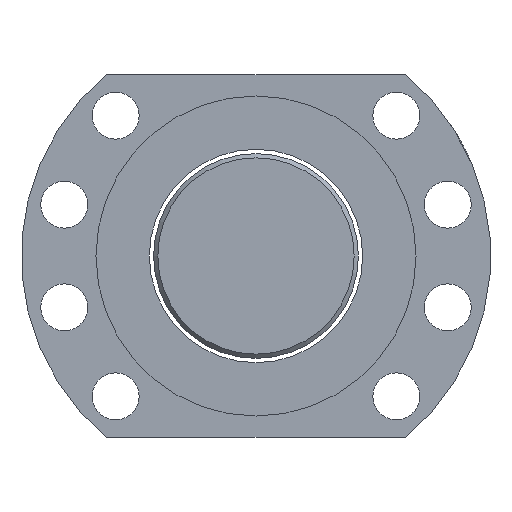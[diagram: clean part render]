
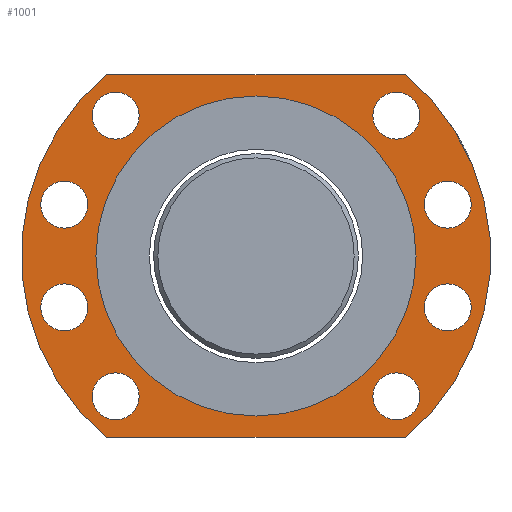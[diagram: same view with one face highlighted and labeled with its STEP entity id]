
A CAD part, left-side view. The second image highlights one B-rep face of the part: STEP entity #1001.
In plain terms, the highlighted planar face has unit normal (-1, 0, 0).
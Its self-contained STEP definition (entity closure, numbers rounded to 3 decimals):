
#21 = EDGE_LOOP ( 'NONE', ( #2133 ) ) ;
#36 = EDGE_CURVE ( 'NONE', #1721, #1721, #2046, .T. ) ;
#39 = CARTESIAN_POINT ( 'NONE',  ( -16.949, -42.067, -1.265 ) ) ;
#54 = DIRECTION ( 'NONE',  ( -1., 0., 0. ) ) ;
#64 = DIRECTION ( 'NONE',  ( 0., 0., -1. ) ) ;
#72 = CARTESIAN_POINT ( 'NONE',  ( -16.949, 47.764, 4.235 ) ) ;
#79 = DIRECTION ( 'NONE',  ( 0., 0., -1. ) ) ;
#82 = ORIENTED_EDGE ( 'NONE', *, *, #147, .T. ) ;
#114 = EDGE_CURVE ( 'NONE', #1668, #1035, #1779, .T. ) ;
#123 = CARTESIAN_POINT ( 'NONE',  ( -16.949, -42.067, 4.235 ) ) ;
#146 = FACE_BOUND ( 'NONE', #21, .T. ) ;
#147 = EDGE_CURVE ( 'NONE', #1576, #1576, #2353, .T. ) ;
#173 = VERTEX_POINT ( 'NONE', #2056 ) ;
#205 = AXIS2_PLACEMENT_3D ( 'NONE', #971, #1533, #1705 ) ;
#231 = CIRCLE ( 'NONE', #1115, 37.5 ) ;
#281 = VERTEX_POINT ( 'NONE', #1965 ) ;
#290 = EDGE_CURVE ( 'NONE', #1206, #1206, #660, .T. ) ;
#308 = AXIS2_PLACEMENT_3D ( 'NONE', #39, #1542, #774 ) ;
#320 = CARTESIAN_POINT ( 'NONE',  ( -16.949, 47.764, 22.805 ) ) ;
#356 = CIRCLE ( 'NONE', #1621, 5.5 ) ;
#392 = EDGE_CURVE ( 'NONE', #470, #470, #1581, .T. ) ;
#396 = EDGE_LOOP ( 'NONE', ( #1193 ) ) ;
#413 = LINE ( 'NONE', #2271, #569 ) ;
#470 = VERTEX_POINT ( 'NONE', #2111 ) ;
#481 = ORIENTED_EDGE ( 'NONE', *, *, #36, .F. ) ;
#482 = CARTESIAN_POINT ( 'NONE',  ( -16.949, 35.729, 49.15 ) ) ;
#491 = FACE_BOUND ( 'NONE', #396, .T. ) ;
#504 = CARTESIAN_POINT ( 'NONE',  ( -16.949, 47.764, 28.305 ) ) ;
#513 = FACE_BOUND ( 'NONE', #1657, .T. ) ;
#561 = EDGE_LOOP ( 'NONE', ( #481 ) ) ;
#569 = VECTOR ( 'NONE', #2075, 1000. ) ;
#575 = ORIENTED_EDGE ( 'NONE', *, *, #1075, .T. ) ;
#583 = AXIS2_PLACEMENT_3D ( 'NONE', #2170, #1808, #1938 ) ;
#597 = DIRECTION ( 'NONE',  ( 1., 0., 0. ) ) ;
#620 = AXIS2_PLACEMENT_3D ( 'NONE', #1322, #597, #802 ) ;
#660 = CIRCLE ( 'NONE', #205, 5.5 ) ;
#664 = CARTESIAN_POINT ( 'NONE',  ( -16.949, -30.032, 49.15 ) ) ;
#673 = CARTESIAN_POINT ( 'NONE',  ( -16.949, 35.729, 43.65 ) ) ;
#676 = DIRECTION ( 'NONE',  ( -1., 0., 0. ) ) ;
#704 = DIRECTION ( 'NONE',  ( -1., 0., 0. ) ) ;
#745 = LINE ( 'NONE', #2045, #1819 ) ;
#746 = EDGE_LOOP ( 'NONE', ( #817, #2183, #1023, #575 ) ) ;
#774 = DIRECTION ( 'NONE',  ( 0., 0., 1. ) ) ;
#802 = DIRECTION ( 'NONE',  ( 0., 0., 1. ) ) ;
#813 = DIRECTION ( 'NONE',  ( -1., 0., 0. ) ) ;
#817 = ORIENTED_EDGE ( 'NONE', *, *, #1639, .T. ) ;
#830 = CARTESIAN_POINT ( 'NONE',  ( -16.949, 2.848, -26.73 ) ) ;
#877 = FACE_BOUND ( 'NONE', #2059, .T. ) ;
#889 = FACE_BOUND ( 'NONE', #561, .T. ) ;
#894 = EDGE_CURVE ( 'NONE', #1423, #1423, #1698, .T. ) ;
#897 = CARTESIAN_POINT ( 'NONE',  ( -16.949, 2.848, 10.77 ) ) ;
#931 = AXIS2_PLACEMENT_3D ( 'NONE', #1500, #1868, #1681 ) ;
#971 = CARTESIAN_POINT ( 'NONE',  ( -16.949, -42.067, 22.805 ) ) ;
#993 = CIRCLE ( 'NONE', #308, 5.5 ) ;
#994 = EDGE_CURVE ( 'NONE', #1243, #1243, #356, .T. ) ;
#1001 = ADVANCED_FACE ( 'NONE', ( #1587, #491, #146, #877, #889, #1758, #1987, #513, #1381, #2297 ), #2119, .T. ) ;
#1023 = ORIENTED_EDGE ( 'NONE', *, *, #114, .T. ) ;
#1035 = VERTEX_POINT ( 'NONE', #1410 ) ;
#1046 = CARTESIAN_POINT ( 'NONE',  ( -16.949, 35.729, -22.111 ) ) ;
#1050 = EDGE_LOOP ( 'NONE', ( #2257 ) ) ;
#1075 = EDGE_CURVE ( 'NONE', #1035, #1266, #745, .T. ) ;
#1111 = ORIENTED_EDGE ( 'NONE', *, *, #894, .F. ) ;
#1115 = AXIS2_PLACEMENT_3D ( 'NONE', #897, #704, #1406 ) ;
#1149 = AXIS2_PLACEMENT_3D ( 'NONE', #1509, #54, #64 ) ;
#1193 = ORIENTED_EDGE ( 'NONE', *, *, #1900, .T. ) ;
#1205 = EDGE_LOOP ( 'NONE', ( #1787 ) ) ;
#1206 = VERTEX_POINT ( 'NONE', #2160 ) ;
#1228 = DIRECTION ( 'NONE',  ( 0., 0., 1. ) ) ;
#1243 = VERTEX_POINT ( 'NONE', #482 ) ;
#1266 = VERTEX_POINT ( 'NONE', #1455 ) ;
#1322 = CARTESIAN_POINT ( 'NONE',  ( -16.949, -30.032, 43.65 ) ) ;
#1343 = CARTESIAN_POINT ( 'NONE',  ( -16.949, -32.062, -31.73 ) ) ;
#1381 = FACE_BOUND ( 'NONE', #1050, .T. ) ;
#1406 = DIRECTION ( 'NONE',  ( 0., 0., -1. ) ) ;
#1410 = CARTESIAN_POINT ( 'NONE',  ( -16.949, -32.062, 53.27 ) ) ;
#1420 = DIRECTION ( 'NONE',  ( -1., 0., 0. ) ) ;
#1423 = VERTEX_POINT ( 'NONE', #504 ) ;
#1434 = DIRECTION ( 'NONE',  ( 0., 0., 1. ) ) ;
#1455 = CARTESIAN_POINT ( 'NONE',  ( -16.949, 37.759, 53.27 ) ) ;
#1500 = CARTESIAN_POINT ( 'NONE',  ( -16.949, 47.764, -1.265 ) ) ;
#1509 = CARTESIAN_POINT ( 'NONE',  ( -16.949, 2.848, 10.77 ) ) ;
#1533 = DIRECTION ( 'NONE',  ( 1., 0., 0. ) ) ;
#1542 = DIRECTION ( 'NONE',  ( 1., 0., 0. ) ) ;
#1561 = VERTEX_POINT ( 'NONE', #830 ) ;
#1572 = EDGE_CURVE ( 'NONE', #1747, #1747, #993, .T. ) ;
#1576 = VERTEX_POINT ( 'NONE', #664 ) ;
#1581 = CIRCLE ( 'NONE', #2164, 5.5 ) ;
#1587 = FACE_BOUND ( 'NONE', #1205, .T. ) ;
#1599 = EDGE_LOOP ( 'NONE', ( #2146 ) ) ;
#1621 = AXIS2_PLACEMENT_3D ( 'NONE', #673, #1797, #1434 ) ;
#1639 = EDGE_CURVE ( 'NONE', #1266, #173, #1917, .T. ) ;
#1644 = DIRECTION ( 'NONE',  ( 0., 1., 0. ) ) ;
#1657 = EDGE_LOOP ( 'NONE', ( #1976 ) ) ;
#1668 = VERTEX_POINT ( 'NONE', #1343 ) ;
#1681 = DIRECTION ( 'NONE',  ( 0., 0., 1. ) ) ;
#1698 = CIRCLE ( 'NONE', #2086, 5.5 ) ;
#1705 = DIRECTION ( 'NONE',  ( 0., 0., 1. ) ) ;
#1721 = VERTEX_POINT ( 'NONE', #72 ) ;
#1747 = VERTEX_POINT ( 'NONE', #123 ) ;
#1758 = FACE_OUTER_BOUND ( 'NONE', #746, .T. ) ;
#1775 = DIRECTION ( 'NONE',  ( 0., 0., 1. ) ) ;
#1779 = CIRCLE ( 'NONE', #1931, 55. ) ;
#1787 = ORIENTED_EDGE ( 'NONE', *, *, #290, .T. ) ;
#1797 = DIRECTION ( 'NONE',  ( -1., 0., 0. ) ) ;
#1808 = DIRECTION ( 'NONE',  ( -1., 0., 0. ) ) ;
#1819 = VECTOR ( 'NONE', #1644, 1000. ) ;
#1852 = EDGE_CURVE ( 'NONE', #1561, #1561, #231, .T. ) ;
#1868 = DIRECTION ( 'NONE',  ( -1., 0., 0. ) ) ;
#1880 = AXIS2_PLACEMENT_3D ( 'NONE', #1981, #2366, #2006 ) ;
#1891 = CARTESIAN_POINT ( 'NONE',  ( -16.949, 2.848, 10.77 ) ) ;
#1900 = EDGE_CURVE ( 'NONE', #281, #281, #2302, .T. ) ;
#1917 = CIRCLE ( 'NONE', #1149, 55. ) ;
#1931 = AXIS2_PLACEMENT_3D ( 'NONE', #1891, #813, #79 ) ;
#1938 = DIRECTION ( 'NONE',  ( 0., 0., 1. ) ) ;
#1965 = CARTESIAN_POINT ( 'NONE',  ( -16.949, -30.032, -16.611 ) ) ;
#1976 = ORIENTED_EDGE ( 'NONE', *, *, #1572, .T. ) ;
#1981 = CARTESIAN_POINT ( 'NONE',  ( -16.949, -30.032, -22.111 ) ) ;
#1987 = FACE_BOUND ( 'NONE', #1599, .T. ) ;
#2006 = DIRECTION ( 'NONE',  ( 0., 0., 1. ) ) ;
#2045 = CARTESIAN_POINT ( 'NONE',  ( -16.949, -32.062, 53.27 ) ) ;
#2046 = CIRCLE ( 'NONE', #931, 5.5 ) ;
#2047 = EDGE_LOOP ( 'NONE', ( #82 ) ) ;
#2056 = CARTESIAN_POINT ( 'NONE',  ( -16.949, 37.759, -31.73 ) ) ;
#2059 = EDGE_LOOP ( 'NONE', ( #1111 ) ) ;
#2075 = DIRECTION ( 'NONE',  ( 0., -1., 0. ) ) ;
#2086 = AXIS2_PLACEMENT_3D ( 'NONE', #320, #676, #1775 ) ;
#2111 = CARTESIAN_POINT ( 'NONE',  ( -16.949, 35.729, -16.611 ) ) ;
#2119 = PLANE ( 'NONE',  #583 ) ;
#2133 = ORIENTED_EDGE ( 'NONE', *, *, #392, .F. ) ;
#2146 = ORIENTED_EDGE ( 'NONE', *, *, #1852, .F. ) ;
#2160 = CARTESIAN_POINT ( 'NONE',  ( -16.949, -42.067, 28.305 ) ) ;
#2164 = AXIS2_PLACEMENT_3D ( 'NONE', #1046, #1420, #1228 ) ;
#2170 = CARTESIAN_POINT ( 'NONE',  ( -16.949, 2.848, 10.77 ) ) ;
#2183 = ORIENTED_EDGE ( 'NONE', *, *, #2250, .T. ) ;
#2250 = EDGE_CURVE ( 'NONE', #173, #1668, #413, .T. ) ;
#2257 = ORIENTED_EDGE ( 'NONE', *, *, #994, .F. ) ;
#2271 = CARTESIAN_POINT ( 'NONE',  ( -16.949, 37.759, -31.73 ) ) ;
#2297 = FACE_BOUND ( 'NONE', #2047, .T. ) ;
#2302 = CIRCLE ( 'NONE', #1880, 5.5 ) ;
#2353 = CIRCLE ( 'NONE', #620, 5.5 ) ;
#2366 = DIRECTION ( 'NONE',  ( 1., 0., 0. ) ) ;
